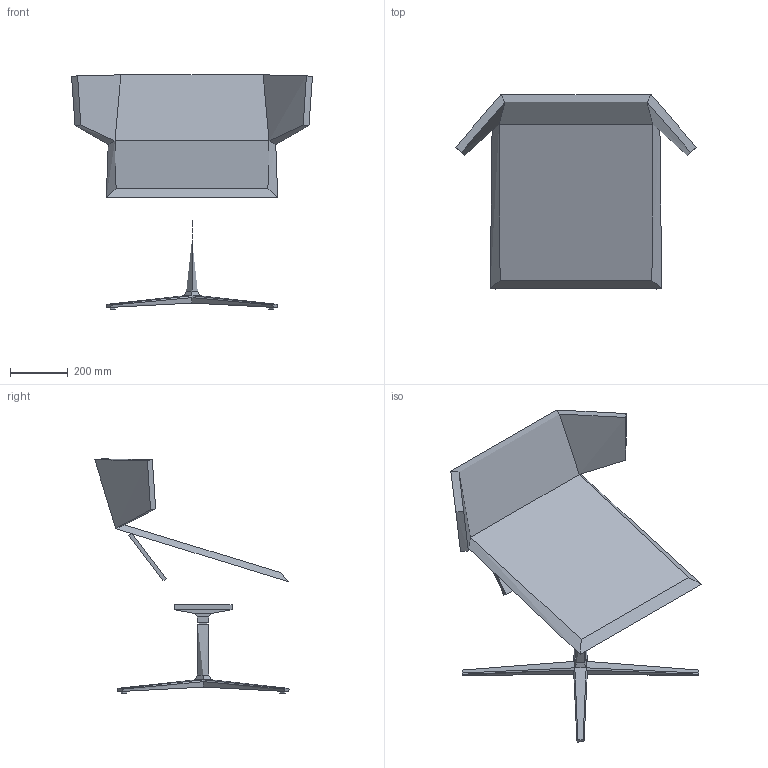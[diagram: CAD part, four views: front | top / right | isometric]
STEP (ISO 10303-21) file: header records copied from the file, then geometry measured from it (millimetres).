
FILE_DESCRIPTION(/* description */ (''),/* implementation_level */ '2;1');
FILE_NAME(/* name */ 'FLEXIL~1',/* time_stamp */ '2017-03-31T10:57:11+02:00',/* author */ (''),/* organization */ (''),/* preprocessor_version */ 'ST-DEVELOPER v15',/* originating_system */ '',/* authorisation */ '');
FILE_SCHEMA (('CONFIG_CONTROL_DESIGN'));
Length unit declared in the file: millimetre
Products named in the file (1): Document
Bounding box: 837.22 x 675.65 x 814.1 mm (x, y, z)
Volume: 41854450 mm3; surface area: 2075726.1 mm2
Topology: 6 solids, 8 shells, 94 faces, 200 edges, 119 vertices
Faces by surface type: bspline 69, plane 25
Entity records: 21393 total; most frequent: CARTESIAN_POINT 20152, ORIENTED_EDGE 389, EDGE_CURVE 197, VERTEX_POINT 117, EDGE_LOOP 95, ADVANCED_FACE 94, FACE_OUTER_BOUND 94, B_SPLINE_CURVE_WITH_KNOTS 56
